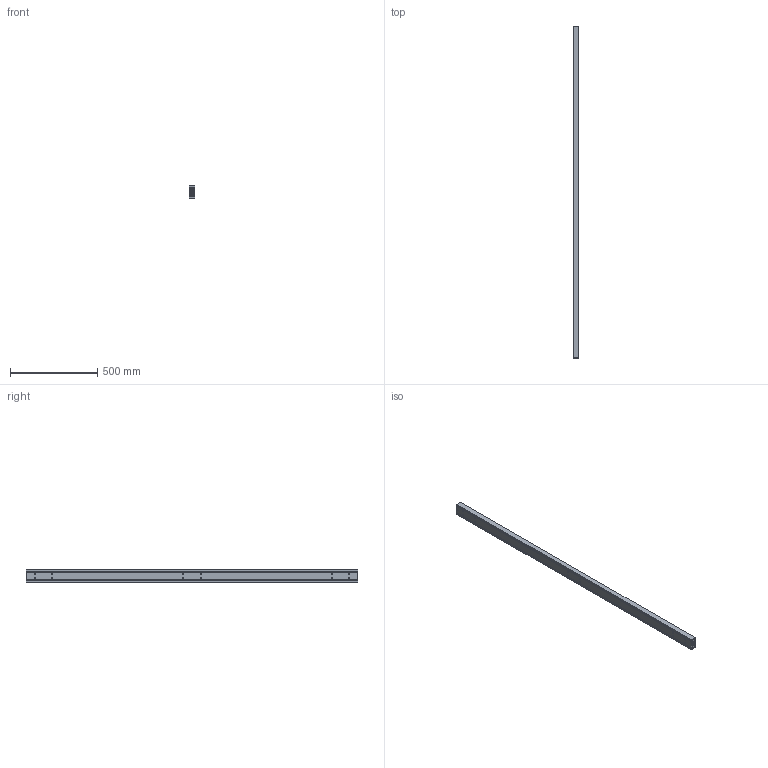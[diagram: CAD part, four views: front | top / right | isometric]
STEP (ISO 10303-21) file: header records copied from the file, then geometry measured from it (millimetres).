
FILE_DESCRIPTION(/* description */ (''),/* implementation_level */ '2;1');
FILE_NAME(/* name */ 'D:\Zeichnungen Schienen Komplett\MX-DTP70\MX-DTP70.190\MX-DTP70.190_eingefahren.step',/* time_stamp */ '2022-01-21T11:57:51+01:00',/* author */ ('zmile'),/* organization */ (''),/* preprocessor_version */ 'ST-DEVELOPER v16.13',/* originating_system */ 'AutoCAD Mechanical',/* authorisation */ '');
FILE_SCHEMA (('AUTOMOTIVE_DESIGN { 1 0 10303 214 3 1 1 }'));
Length unit declared in the file: millimetre
Products named in the file (1): Product
Bounding box: 32 x 1900 x 70 mm (x, y, z)
Volume: 3252245.6 mm3; surface area: 1165961 mm2
Topology: 117 solids, 119 shells, 246 faces, 912 edges, 680 vertices
Faces by surface type: sphere 112, plane 82, cylinder 38, bspline 8, torus 6
Full cylindrical faces by diameter (mm): 8 x24, 13 x2
Entity records: 15475 total; most frequent: CARTESIAN_POINT 8035, DIRECTION 1538, ORIENTED_EDGE 1052, VERTEX_POINT 678, AXIS2_PLACEMENT_3D 663, EDGE_CURVE 654, EDGE_LOOP 554, CIRCLE 420
